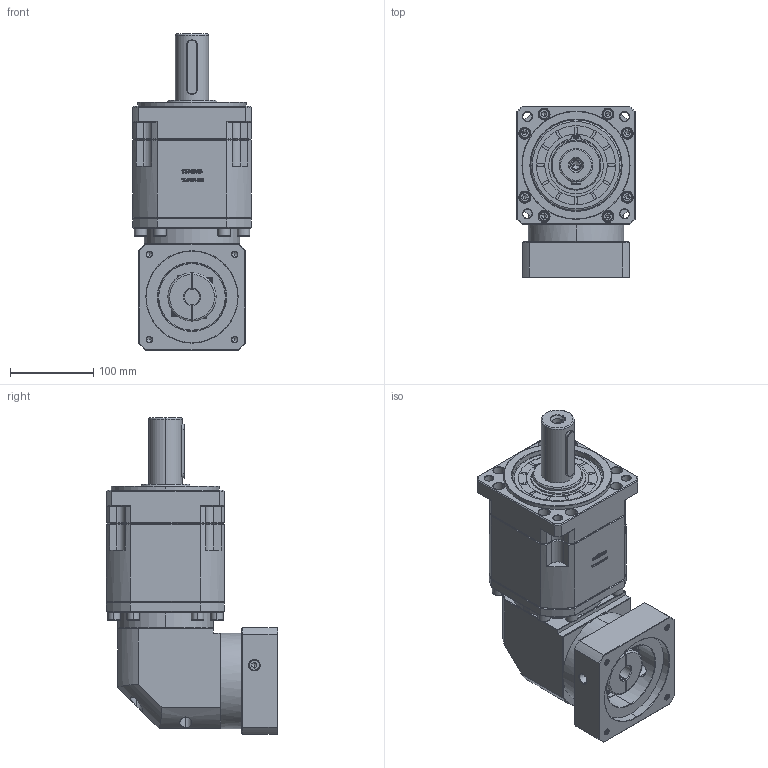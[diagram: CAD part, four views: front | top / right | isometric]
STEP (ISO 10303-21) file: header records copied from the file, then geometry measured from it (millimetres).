
FILE_DESCRIPTION (( 'STEP AP214' ), '1' );
FILE_NAME ('ZBR142A-D40-L3-19-110-145-M8.step', '2023-03-20T04:12:20', ( '' ), ( '' ), 'SwSTEP 2.0', 'SolidWorks 2016', '' );
FILE_SCHEMA (( 'AUTOMOTIVE_DESIGN' ));
Length unit declared in the file: millimetre
Products named in the file (1): ZBR142A-D40-L3-19-110-145-M8
Bounding box: 142 x 205.9 x 380.2 mm (x, y, z)
Volume: 5228019.1 mm3; surface area: 345175.5 mm2
Topology: 6 solids, 6 shells, 3191 faces, 8402 edges, 5379 vertices
Faces by surface type: plane 1652, bspline 593, cylinder 502, cone 398, torus 46
Entity records: 170676 total; most frequent: CARTESIAN_POINT 61469, ORIENTED_EDGE 16696, DIRECTION 13061, EDGE_CURVE 8348, VECTOR 5589, LINE 5589, VERTEX_POINT 5379, AXIS2_PLACEMENT_3D 3736
